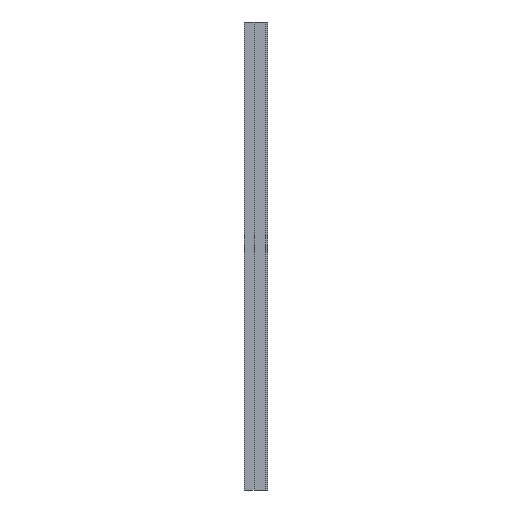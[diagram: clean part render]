
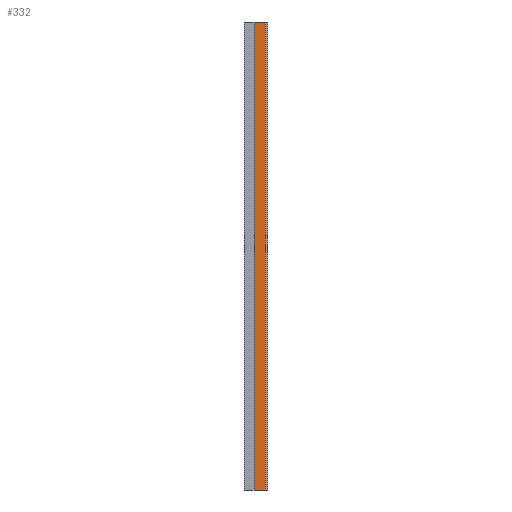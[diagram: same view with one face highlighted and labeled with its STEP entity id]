
A CAD part, left-side view. The second image highlights one B-rep face of the part: STEP entity #332.
In plain terms, the highlighted planar face has unit normal (-1, 0, 0).
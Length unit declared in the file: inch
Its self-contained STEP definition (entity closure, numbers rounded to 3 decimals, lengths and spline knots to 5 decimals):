
#16=PLANE('',#376);
#30=FACE_OUTER_BOUND('',#48,.T.);
#48=EDGE_LOOP('',(#239,#240,#241,#242));
#68=LINE('',#518,#104);
#70=LINE('',#524,#106);
#71=LINE('',#526,#107);
#72=LINE('',#527,#108);
#104=VECTOR('',#418,0.3937);
#106=VECTOR('',#424,0.3937);
#107=VECTOR('',#425,0.3937);
#108=VECTOR('',#426,0.3937);
#154=VERTEX_POINT('',#515);
#155=VERTEX_POINT('',#517);
#157=VERTEX_POINT('',#523);
#158=VERTEX_POINT('',#525);
#187=EDGE_CURVE('',#154,#155,#68,.T.);
#190=EDGE_CURVE('',#154,#157,#70,.T.);
#191=EDGE_CURVE('',#157,#158,#71,.T.);
#192=EDGE_CURVE('',#155,#158,#72,.T.);
#239=ORIENTED_EDGE('',*,*,#187,.F.);
#240=ORIENTED_EDGE('',*,*,#190,.T.);
#241=ORIENTED_EDGE('',*,*,#191,.T.);
#242=ORIENTED_EDGE('',*,*,#192,.F.);
#332=ADVANCED_FACE('',(#30),#16,.T.);
#376=AXIS2_PLACEMENT_3D('',#522,#422,#423);
#418=DIRECTION('',(0.,0.,1.));
#422=DIRECTION('center_axis',(-1.,0.,0.));
#423=DIRECTION('ref_axis',(0.,-1.,0.));
#424=DIRECTION('',(0.,-1.,0.));
#425=DIRECTION('',(0.,0.,1.));
#426=DIRECTION('',(0.,-1.,0.));
#515=CARTESIAN_POINT('',(1.2551,-0.025,0.));
#517=CARTESIAN_POINT('',(1.2551,-0.025,120.));
#518=CARTESIAN_POINT('',(1.2551,-0.025,0.));
#522=CARTESIAN_POINT('Origin',(1.2551,-0.0179,0.));
#523=CARTESIAN_POINT('',(1.2551,-3.476,0.));
#524=CARTESIAN_POINT('',(1.2551,-0.0179,0.));
#525=CARTESIAN_POINT('',(1.2551,-3.476,120.));
#526=CARTESIAN_POINT('',(1.2551,-3.476,0.));
#527=CARTESIAN_POINT('',(1.2551,-0.0179,120.));
